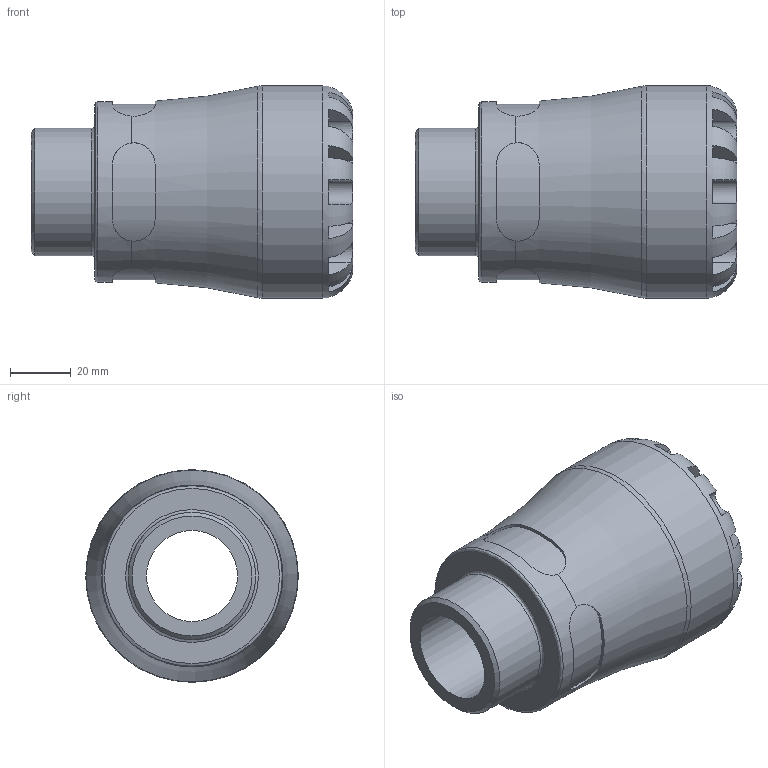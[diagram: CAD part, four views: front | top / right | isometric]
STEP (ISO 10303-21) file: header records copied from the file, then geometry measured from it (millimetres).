
FILE_DESCRIPTION(/* description */ ('PLASSON MALE ADAPTOR 40X1.1/4" SERIES 1'),/* implementation_level */ '2;1');
FILE_NAME(/* name */ 'C:\Dropbox\KIMPROJECTS-Inventor\99-16-3568-Processing\S1\1002\100200040013_190200040013.ipt.stp',/* time_stamp */ '2017-07-27T14:39:29+03:00',/* author */ ('KIM'),/* organization */ (''),/* preprocessor_version */ 'ST-DEVELOPER v15.6',/* originating_system */ 'Autodesk Inventor 2015',/* authorisation */ '');
FILE_SCHEMA (('AUTOMOTIVE_DESIGN { 1 0 10303 214 3 1 1 }'));
Length unit declared in the file: millimetre
Products named in the file (1): 100200040013_190200040013
Bounding box: 106 x 70 x 70 mm (x, y, z)
Volume: 186930.5 mm3; surface area: 38628.6 mm2
Topology: 1 solids, 1 shells, 100 faces, 257 edges, 161 vertices
Faces by surface type: plane 60, cylinder 33, torus 5, cone 2
Full cylindrical faces by diameter (mm): 30 x1, 40 x1, 41.91 x1, 59.5 x1, 70 x1
Entity records: 3776 total; most frequent: CARTESIAN_POINT 1457, ORIENTED_EDGE 484, DIRECTION 462, EDGE_CURVE 242, AXIS2_PLACEMENT_3D 191, VERTEX_POINT 158, EDGE_LOOP 116, FACE_OUTER_BOUND 100
